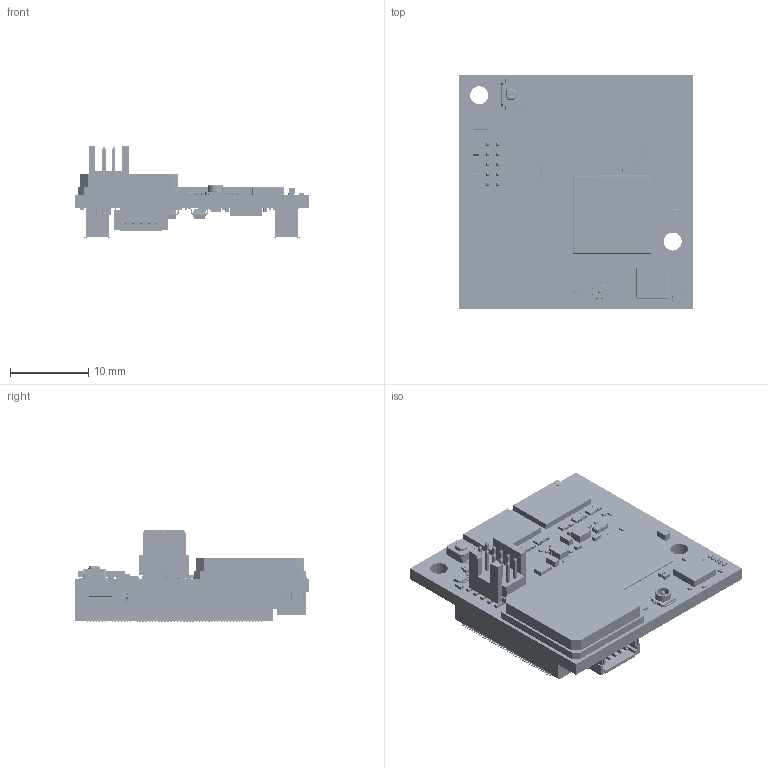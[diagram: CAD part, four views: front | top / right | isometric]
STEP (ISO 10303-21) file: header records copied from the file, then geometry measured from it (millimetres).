
FILE_DESCRIPTION(('Open CASCADE Model'),'2;1');
FILE_NAME('Open CASCADE Shape Model','2021-05-05T08:49:15',('Author'),( 'Open CASCADE'),'Open CASCADE STEP processor 6.8','Open CASCADE 6.8' ,'Unknown');
FILE_SCHEMA(('AUTOMOTIVE_DESIGN { 1 0 10303 214 1 1 1 1 }'));
Products named in the file (1): PCB
Bounding box: 30 x 30 x 11.71 mm (x, y, z)
Volume: 2434.6 mm3; surface area: 5788.6 mm2
Topology: 452 solids, 5597 shells, 16884 faces, 56042 edges, 44952 vertices
Faces by surface type: plane 10230, cylinder 3697, bspline 2269, sphere 610, torus 40, cone 38
Full cylindrical faces by diameter (mm): 0.075 x1, 0.175 x1, 2.3 x2
Entity records: 744213 total; most frequent: CARTESIAN_POINT 232300, DIRECTION 90485, ORIENTED_EDGE 84416, EDGE_CURVE 55436, VERTEX_POINT 44952, LINE 39545, VECTOR 39545, AXIS2_PLACEMENT_3D 25470
